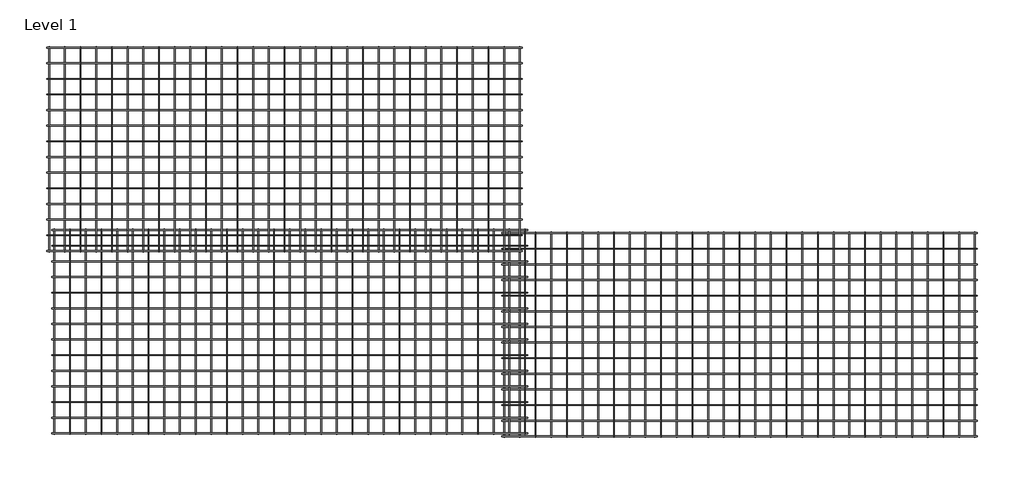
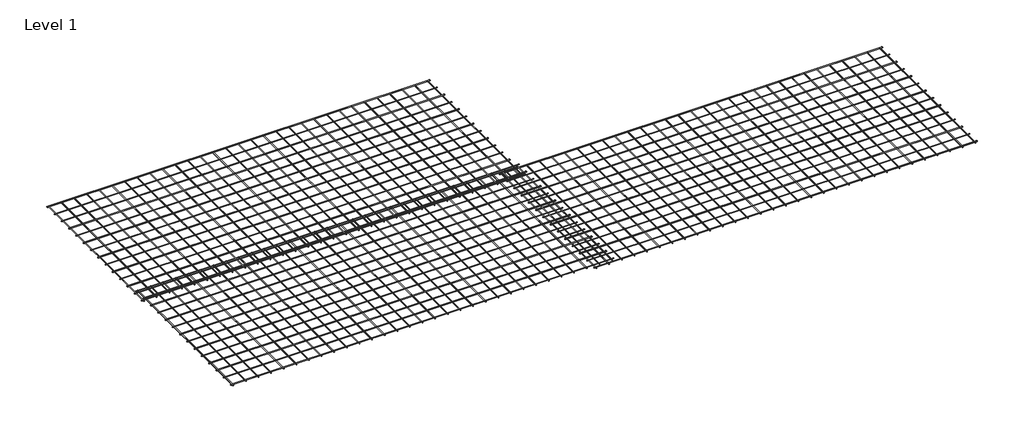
# One storey: 3 proxies.
"""IFC4 building model written with IfcOpenShell, lengths in millimetres."""

import ifcopenshell
import ifcopenshell.guid

model = None  # the IFC model being written
_history = None  # IfcOwnerHistory: only IFC2X3 demands one
_inside = {}  # id of a spatial element -> (the spatial element, [elements in it])
_under = {}  # id of a project, library or spatial element -> (it, [spatial elements below it])
_declared = {}  # id of a project -> (the project, [libraries it declares])
_typed = {}  # id of a type object -> (the type object, [elements of that type])
_made_of = {}  # id of a material, layer set ... -> (it, [elements and type objects made of it])


def new_model(schema):
    """Start an empty IFC model of exactly this schema.

    Asked for "IFC4X3", IfcOpenShell would pick the latest addendum, in which some entities
    have other attributes; the version numbers below select the first issue.
    IFC2X3 requires an IfcOwnerHistory on every rooted entity: one is made here for all.
    """
    global model, _history
    if schema == "IFC4X3":
        model = ifcopenshell.file(schema_version=(4, 3, 0, 0))
    else:
        model = ifcopenshell.file(schema=schema)
    _inside.clear()
    _under.clear()
    _declared.clear()
    _typed.clear()
    _made_of.clear()
    _history = None
    if model.schema == "IFC2X3":
        org = make("IfcOrganization", Name="unknown")
        user = make(
            "IfcPersonAndOrganization",
            ThePerson=make("IfcPerson", FamilyName="unknown"),
            TheOrganization=org,
        )
        app = make(
            "IfcApplication",
            ApplicationDeveloper=org,
            Version="unknown",
            ApplicationFullName="unknown",
            ApplicationIdentifier="unknown",
        )
        _history = make(
            "IfcOwnerHistory",
            OwningUser=user,
            OwningApplication=app,
            ChangeAction="ADDED",
            CreationDate=0,
        )
    return model


def make(cls, **values):
    """One entity of the class cls with the attributes given. An attribute that is None is left unset."""
    return model.create_entity(
        cls, **{name: value for name, value in values.items() if value is not None}
    )


def rooted(cls, **values):
    """An entity with a GlobalId (a new one), such as an element, a storey or a relation."""
    return make(cls, GlobalId=ifcopenshell.guid.new(), OwnerHistory=_history, **values)


def si_unit(unit_type, name, prefix=None):
    """IfcSIUnit, for example si_unit("LENGTHUNIT", "METRE", prefix="MILLI")."""
    return make("IfcSIUnit", UnitType=unit_type, Prefix=prefix, Name=name)


def assignment(units):
    """IfcUnitAssignment: the units of a project."""
    return None if units is None else make("IfcUnitAssignment", Units=units)


def point(xyz):
    """IfcCartesianPoint."""
    return None if xyz is None else make("IfcCartesianPoint", Coordinates=xyz)


def direction(xyz):
    """IfcDirection."""
    return None if xyz is None else make("IfcDirection", DirectionRatios=xyz)


def frame(location, z_axis=None, x_axis=None):
    """IfcAxis2Placement3D, a coordinate frame: its origin and axes. An axis left out is left unset."""
    return make(
        "IfcAxis2Placement3D",
        Location=point(location),
        Axis=direction(z_axis),
        RefDirection=direction(x_axis),
    )


def frame_2d(location, x_axis=None):
    """IfcAxis2Placement2D, a coordinate frame in the plane: its origin and x axis."""
    return make(
        "IfcAxis2Placement2D", Location=point(location), RefDirection=direction(x_axis)
    )


def origin():
    """The frame at (0, 0, 0) with its axes left unset."""
    return frame((0.0, 0.0, 0.0))


def place(relative_to, where):
    """IfcLocalPlacement: puts the frame where relative to a parent placement (None: the world)."""
    return make(
        "IfcLocalPlacement", PlacementRelTo=relative_to, RelativePlacement=where
    )


def context(
    kind, dimensions, precision=None, world=None, true_north=None, identifier=None
):
    """IfcGeometricRepresentationContext, for example the 3D "Model" context."""
    return make(
        "IfcGeometricRepresentationContext",
        ContextIdentifier=identifier,
        ContextType=kind,
        CoordinateSpaceDimension=dimensions,
        Precision=precision,
        WorldCoordinateSystem=world,
        TrueNorth=true_north,
    )


def project(units=None, contexts=None):
    """IfcProject with its units and contexts."""
    return rooted(
        "IfcProject",
        Name="project",
        RepresentationContexts=contexts,
        UnitsInContext=assignment(units),
    )


def spatial(cls, under=None, at=None, **own):
    """A site, building, storey or space (cls), placed at a placement, below another one or the project."""
    s = rooted(cls, ObjectPlacement=at, **own)
    if under is not None:
        _under.setdefault(under.id(), (under, []))[1].append(s)
    return s


def circle_curve(where, radius):
    """IfcCircle in the frame where."""
    return make("IfcCircle", Position=where, Radius=radius)


def trimmed(basis, trim1, trim2, sense, master):
    """IfcTrimmedCurve: the piece of a basis curve between two trims."""
    return make(
        "IfcTrimmedCurve",
        BasisCurve=basis,
        Trim1=trim1,
        Trim2=trim2,
        SenseAgreement=sense,
        MasterRepresentation=master,
    )


def segment(curve, same_sense, transition):
    """IfcCompositeCurveSegment."""
    return make(
        "IfcCompositeCurveSegment",
        Transition=transition,
        SameSense=same_sense,
        ParentCurve=curve,
    )


def composite_curve(segments, self_intersect=None):
    """IfcCompositeCurve: segments joined end to end."""
    return make("IfcCompositeCurve", Segments=segments, SelfIntersect=self_intersect)


def outline(outer, holes=None, kind="AREA"):
    """IfcArbitraryClosedProfileDef: a profile drawn as a closed curve; with holes, ...WithVoids."""
    if holes is None:
        return make("IfcArbitraryClosedProfileDef", ProfileType=kind, OuterCurve=outer)
    return make(
        "IfcArbitraryProfileDefWithVoids",
        ProfileType=kind,
        OuterCurve=outer,
        InnerCurves=holes,
    )


def extrude(swept, where, along, depth):
    """IfcExtrudedAreaSolid: the profile swept, set in the frame where, extruded along a direction by depth."""
    return make(
        "IfcExtrudedAreaSolid",
        SweptArea=swept,
        Position=where,
        ExtrudedDirection=direction(along),
        Depth=depth,
    )


def shape(context_of_items, identifier, shape_type, items):
    """IfcShapeRepresentation: the items that make up one representation, for example the "Body"."""
    return make(
        "IfcShapeRepresentation",
        ContextOfItems=context_of_items,
        RepresentationIdentifier=identifier,
        RepresentationType=shape_type,
        Items=items,
    )


def source(mapping_origin, context_of_items, identifier, shape_type, items):
    """IfcRepresentationMap: a shape defined once, which mapped items show again and again."""
    return make(
        "IfcRepresentationMap",
        MappingOrigin=mapping_origin,
        MappedRepresentation=shape(context_of_items, identifier, shape_type, items),
    )


def transform(
    local_origin,
    x_axis=None,
    y_axis=None,
    z_axis=None,
    scale=None,
    scale2=None,
    scale3=None,
    uniform=True,
):
    """IfcCartesianTransformationOperator3D, or its non-uniform kind. x_axis, y_axis, z_axis: its Axis1, 2, 3."""
    if uniform:
        return make(
            "IfcCartesianTransformationOperator3D",
            Axis1=direction(x_axis),
            Axis2=direction(y_axis),
            LocalOrigin=point(local_origin),
            Scale=scale,
            Axis3=direction(z_axis),
        )
    return make(
        "IfcCartesianTransformationOperator3DnonUniform",
        Axis1=direction(x_axis),
        Axis2=direction(y_axis),
        LocalOrigin=point(local_origin),
        Scale=scale,
        Axis3=direction(z_axis),
        Scale2=scale2,
        Scale3=scale3,
    )


def mapped(mapping_source, mapping_target):
    """IfcMappedItem: shows the shape of a source again, moved by a transform."""
    return make(
        "IfcMappedItem", MappingSource=mapping_source, MappingTarget=mapping_target
    )


def made_of(thing, what):
    """Note that an element or type object is made of a material, layer set ...; save() writes the relation."""
    if what is not None:
        _made_of.setdefault(what.id(), (what, []))[1].append(thing)
    return thing


def element(
    cls,
    number,
    at=None,
    inside=None,
    cuts=None,
    type_object=None,
    material=None,
    context=None,
    identifier="Body",
    shape_type=None,
    held_by="IfcProductDefinitionShape",
    body=None,
    shapes=None,
    **own,
):
    """One element of the class cls, such as IfcWall. Its Tag is "e" and its number.

    at: its placement. inside: the storey or other place that contains it. cuts: it is an
    opening in that element (IfcRelVoidsElement). A single representation is given by context,
    identifier, shape_type and body (its items); several are given by shapes. held_by: the class
    of the entity that holds the representations. save() writes the other relations.
    """
    e = rooted(cls, Tag="e%d" % number, ObjectPlacement=at, **own)
    if body is not None:
        shapes = [shape(context, identifier, shape_type, body)]
    if shapes is not None:
        e.Representation = make(held_by, Representations=shapes)
    if inside is not None:
        _inside.setdefault(inside.id(), (inside, []))[1].append(e)
    if cuts is not None:
        rooted(
            "IfcRelVoidsElement", RelatingBuildingElement=cuts, RelatedOpeningElement=e
        )
    if type_object is not None:
        _typed.setdefault(type_object.id(), (type_object, []))[1].append(e)
    return made_of(e, material)


def aggregate(whole, parts):
    """IfcRelAggregates: a whole, such as a stair, and the parts it consists of."""
    return rooted("IfcRelAggregates", RelatingObject=whole, RelatedObjects=parts)


def save(model, path):
    """Write the relations noted so far, then the file.

    IfcRelAggregates (storeys below a building ...), IfcRelContainedInSpatialStructure (elements
    in a storey), IfcRelDefinesByType, IfcRelAssociatesMaterial and IfcRelDeclares: one each for
    every whole, place, type object, material and project.
    """
    for whole, parts in _under.values():
        aggregate(whole, parts)
    for where, things in _inside.values():
        rooted(
            "IfcRelContainedInSpatialStructure",
            RelatedElements=things,
            RelatingStructure=where,
        )
    for kind, things in _typed.values():
        rooted("IfcRelDefinesByType", RelatedObjects=things, RelatingType=kind)
    for what, things in _made_of.values():
        rooted("IfcRelAssociatesMaterial", RelatedObjects=things, RelatingMaterial=what)
    for by, libraries in _declared.values():
        rooted("IfcRelDeclares", RelatingContext=by, RelatedDefinitions=libraries)
    model.write(path)


def united_steel_668_standard_mesh_united_steel_668_standard_f7d3e2c0(model_context):
    return source(origin(), model_context, "Body", "SweptSolid", [
        extrude(outline(composite_curve([segment(trimmed(circle_curve(frame_2d((-160.258988, 11.9785975)), 4.0), [point((-164.258988, 11.9785975))], [point((-156.258988, 11.9785975))], False, "CARTESIAN"), True, "CONTINUOUS"), segment(trimmed(circle_curve(frame_2d((-160.258988, 11.9785975)), 4.0), [point((-156.258988, 11.9785975))], [point((-164.258988, 11.9785975))], False, "CARTESIAN"), True, "CONTINUOUS")], self_intersect=False)), frame((-4560.0, 0.0, 0.0), z_axis=(1.0, 0.0, 0.0), x_axis=(0.0, 1.0, 0.0)), (0.0, 0.0, 1.0), 4560.0),
        extrude(outline(composite_curve([segment(trimmed(circle_curve(frame_2d((3.981299, -4384.564546)), 4.0), [point((3.981299, -4388.564546))], [point((3.981299, -4380.564546))], False, "CARTESIAN"), True, "CONTINUOUS"), segment(trimmed(circle_curve(frame_2d((3.981299, -4384.564546)), 4.0), [point((3.981299, -4380.564546))], [point((3.981299, -4388.564546))], False, "CARTESIAN"), True, "CONTINUOUS")], self_intersect=False)), frame((0.0, -1970.0, 0.0), z_axis=(0.0, 1.0, 0.0), x_axis=(0.0, 0.0, 1.0)), (0.0, 0.0, 1.0), 1970.0),
        extrude(outline(composite_curve([segment(trimmed(circle_curve(frame_2d((-310.2633498, 11.9785975)), 4.0), [point((-314.2633498, 11.9785975))], [point((-306.2633498, 11.9785975))], False, "CARTESIAN"), True, "CONTINUOUS"), segment(trimmed(circle_curve(frame_2d((-310.2633498, 11.9785975)), 4.0), [point((-306.2633498, 11.9785975))], [point((-314.2633498, 11.9785975))], False, "CARTESIAN"), True, "CONTINUOUS")], self_intersect=False)), frame((-4560.0, 0.0, 0.0), z_axis=(1.0, 0.0, 0.0), x_axis=(0.0, 1.0, 0.0)), (0.0, 0.0, 1.0), 4560.0),
        extrude(outline(composite_curve([segment(trimmed(circle_curve(frame_2d((-460.2677116, 11.9785975)), 4.0), [point((-464.2677116, 11.9785975))], [point((-456.2677116, 11.9785975))], False, "CARTESIAN"), True, "CONTINUOUS"), segment(trimmed(circle_curve(frame_2d((-460.2677116, 11.9785975)), 4.0), [point((-456.2677116, 11.9785975))], [point((-464.2677116, 11.9785975))], False, "CARTESIAN"), True, "CONTINUOUS")], self_intersect=False)), frame((-4560.0, 0.0, 0.0), z_axis=(1.0, 0.0, 0.0), x_axis=(0.0, 1.0, 0.0)), (0.0, 0.0, 1.0), 4560.0),
        extrude(outline(composite_curve([segment(trimmed(circle_curve(frame_2d((3.981299, -4234.2352351)), 4.0), [point((3.981299, -4238.2352351))], [point((3.981299, -4230.2352351))], False, "CARTESIAN"), True, "CONTINUOUS"), segment(trimmed(circle_curve(frame_2d((3.981299, -4234.2352351)), 4.0), [point((3.981299, -4230.2352351))], [point((3.981299, -4238.2352351))], False, "CARTESIAN"), True, "CONTINUOUS")], self_intersect=False)), frame((0.0, -1970.0, 0.0), z_axis=(0.0, 1.0, 0.0), x_axis=(0.0, 0.0, 1.0)), (0.0, 0.0, 1.0), 1970.0),
        extrude(outline(composite_curve([segment(trimmed(circle_curve(frame_2d((3.981299, -4083.9059242)), 4.0), [point((3.981299, -4087.9059242))], [point((3.981299, -4079.9059242))], False, "CARTESIAN"), True, "CONTINUOUS"), segment(trimmed(circle_curve(frame_2d((3.981299, -4083.9059242)), 4.0), [point((3.981299, -4079.9059242))], [point((3.981299, -4087.9059242))], False, "CARTESIAN"), True, "CONTINUOUS")], self_intersect=False)), frame((0.0, -1970.0, 0.0), z_axis=(0.0, 1.0, 0.0), x_axis=(0.0, 0.0, 1.0)), (0.0, 0.0, 1.0), 1970.0),
        extrude(outline(composite_curve([segment(trimmed(circle_curve(frame_2d((3.981299, -3933.5766132)), 4.0), [point((3.981299, -3937.5766132))], [point((3.981299, -3929.5766132))], False, "CARTESIAN"), True, "CONTINUOUS"), segment(trimmed(circle_curve(frame_2d((3.981299, -3933.5766132)), 4.0), [point((3.981299, -3929.5766132))], [point((3.981299, -3937.5766132))], False, "CARTESIAN"), True, "CONTINUOUS")], self_intersect=False)), frame((0.0, -1970.0, 0.0), z_axis=(0.0, 1.0, 0.0), x_axis=(0.0, 0.0, 1.0)), (0.0, 0.0, 1.0), 1970.0),
        extrude(outline(composite_curve([segment(trimmed(circle_curve(frame_2d((3.981299, -3783.2473023)), 4.0), [point((3.981299, -3787.2473023))], [point((3.981299, -3779.2473023))], False, "CARTESIAN"), True, "CONTINUOUS"), segment(trimmed(circle_curve(frame_2d((3.981299, -3783.2473023)), 4.0), [point((3.981299, -3779.2473023))], [point((3.981299, -3787.2473023))], False, "CARTESIAN"), True, "CONTINUOUS")], self_intersect=False)), frame((0.0, -1970.0, 0.0), z_axis=(0.0, 1.0, 0.0), x_axis=(0.0, 0.0, 1.0)), (0.0, 0.0, 1.0), 1970.0),
        extrude(outline(composite_curve([segment(trimmed(circle_curve(frame_2d((3.981299, -3632.9179913)), 4.0), [point((3.981299, -3636.9179913))], [point((3.981299, -3628.9179913))], False, "CARTESIAN"), True, "CONTINUOUS"), segment(trimmed(circle_curve(frame_2d((3.981299, -3632.9179913)), 4.0), [point((3.981299, -3628.9179913))], [point((3.981299, -3636.9179913))], False, "CARTESIAN"), True, "CONTINUOUS")], self_intersect=False)), frame((0.0, -1970.0, 0.0), z_axis=(0.0, 1.0, 0.0), x_axis=(0.0, 0.0, 1.0)), (0.0, 0.0, 1.0), 1970.0),
        extrude(outline(composite_curve([segment(trimmed(circle_curve(frame_2d((3.981299, -3482.5886804)), 4.0), [point((3.981299, -3486.5886804))], [point((3.981299, -3478.5886804))], False, "CARTESIAN"), True, "CONTINUOUS"), segment(trimmed(circle_curve(frame_2d((3.981299, -3482.5886804)), 4.0), [point((3.981299, -3478.5886804))], [point((3.981299, -3486.5886804))], False, "CARTESIAN"), True, "CONTINUOUS")], self_intersect=False)), frame((0.0, -1970.0, 0.0), z_axis=(0.0, 1.0, 0.0), x_axis=(0.0, 0.0, 1.0)), (0.0, 0.0, 1.0), 1970.0),
        extrude(outline(composite_curve([segment(trimmed(circle_curve(frame_2d((3.981299, -3332.2593695)), 4.0), [point((3.981299, -3336.2593695))], [point((3.981299, -3328.2593695))], False, "CARTESIAN"), True, "CONTINUOUS"), segment(trimmed(circle_curve(frame_2d((3.981299, -3332.2593695)), 4.0), [point((3.981299, -3328.2593695))], [point((3.981299, -3336.2593695))], False, "CARTESIAN"), True, "CONTINUOUS")], self_intersect=False)), frame((0.0, -1970.0, 0.0), z_axis=(0.0, 1.0, 0.0), x_axis=(0.0, 0.0, 1.0)), (0.0, 0.0, 1.0), 1970.0),
        extrude(outline(composite_curve([segment(trimmed(circle_curve(frame_2d((-610.2720734, 11.9785975)), 4.0), [point((-614.2720734, 11.9785975))], [point((-606.2720734, 11.9785975))], False, "CARTESIAN"), True, "CONTINUOUS"), segment(trimmed(circle_curve(frame_2d((-610.2720734, 11.9785975)), 4.0), [point((-606.2720734, 11.9785975))], [point((-614.2720734, 11.9785975))], False, "CARTESIAN"), True, "CONTINUOUS")], self_intersect=False)), frame((-4560.0, 0.0, 0.0), z_axis=(1.0, 0.0, 0.0), x_axis=(0.0, 1.0, 0.0)), (0.0, 0.0, 1.0), 4560.0),
        extrude(outline(composite_curve([segment(trimmed(circle_curve(frame_2d((-760.2764352, 11.9785975)), 4.0), [point((-764.2764352, 11.9785975))], [point((-756.2764352, 11.9785975))], False, "CARTESIAN"), True, "CONTINUOUS"), segment(trimmed(circle_curve(frame_2d((-760.2764352, 11.9785975)), 4.0), [point((-756.2764352, 11.9785975))], [point((-764.2764352, 11.9785975))], False, "CARTESIAN"), True, "CONTINUOUS")], self_intersect=False)), frame((-4560.0, 0.0, 0.0), z_axis=(1.0, 0.0, 0.0), x_axis=(0.0, 1.0, 0.0)), (0.0, 0.0, 1.0), 4560.0),
        extrude(outline(composite_curve([segment(trimmed(circle_curve(frame_2d((-910.280797, 11.9785975)), 4.0), [point((-914.280797, 11.9785975))], [point((-906.280797, 11.9785975))], False, "CARTESIAN"), True, "CONTINUOUS"), segment(trimmed(circle_curve(frame_2d((-910.280797, 11.9785975)), 4.0), [point((-906.280797, 11.9785975))], [point((-914.280797, 11.9785975))], False, "CARTESIAN"), True, "CONTINUOUS")], self_intersect=False)), frame((-4560.0, 0.0, 0.0), z_axis=(1.0, 0.0, 0.0), x_axis=(0.0, 1.0, 0.0)), (0.0, 0.0, 1.0), 4560.0),
        extrude(outline(composite_curve([segment(trimmed(circle_curve(frame_2d((-1060.2851588, 11.9785975)), 4.0), [point((-1064.2851588, 11.9785975))], [point((-1056.2851588, 11.9785975))], False, "CARTESIAN"), True, "CONTINUOUS"), segment(trimmed(circle_curve(frame_2d((-1060.2851588, 11.9785975)), 4.0), [point((-1056.2851588, 11.9785975))], [point((-1064.2851588, 11.9785975))], False, "CARTESIAN"), True, "CONTINUOUS")], self_intersect=False)), frame((-4560.0, 0.0, 0.0), z_axis=(1.0, 0.0, 0.0), x_axis=(0.0, 1.0, 0.0)), (0.0, 0.0, 1.0), 4560.0),
        extrude(outline(composite_curve([segment(trimmed(circle_curve(frame_2d((-1210.2895206, 11.9785975)), 4.0), [point((-1214.2895206, 11.9785975))], [point((-1206.2895206, 11.9785975))], False, "CARTESIAN"), True, "CONTINUOUS"), segment(trimmed(circle_curve(frame_2d((-1210.2895206, 11.9785975)), 4.0), [point((-1206.2895206, 11.9785975))], [point((-1214.2895206, 11.9785975))], False, "CARTESIAN"), True, "CONTINUOUS")], self_intersect=False)), frame((-4560.0, 0.0, 0.0), z_axis=(1.0, 0.0, 0.0), x_axis=(0.0, 1.0, 0.0)), (0.0, 0.0, 1.0), 4560.0),
        extrude(outline(composite_curve([segment(trimmed(circle_curve(frame_2d((-1360.2938824, 11.9785975)), 4.0), [point((-1364.2938824, 11.9785975))], [point((-1356.2938824, 11.9785975))], False, "CARTESIAN"), True, "CONTINUOUS"), segment(trimmed(circle_curve(frame_2d((-1360.2938824, 11.9785975)), 4.0), [point((-1356.2938824, 11.9785975))], [point((-1364.2938824, 11.9785975))], False, "CARTESIAN"), True, "CONTINUOUS")], self_intersect=False)), frame((-4560.0, 0.0, 0.0), z_axis=(1.0, 0.0, 0.0), x_axis=(0.0, 1.0, 0.0)), (0.0, 0.0, 1.0), 4560.0),
        extrude(outline(composite_curve([segment(trimmed(circle_curve(frame_2d((-1510.2982442, 11.9785975)), 4.0), [point((-1514.2982442, 11.9785975))], [point((-1506.2982442, 11.9785975))], False, "CARTESIAN"), True, "CONTINUOUS"), segment(trimmed(circle_curve(frame_2d((-1510.2982442, 11.9785975)), 4.0), [point((-1506.2982442, 11.9785975))], [point((-1514.2982442, 11.9785975))], False, "CARTESIAN"), True, "CONTINUOUS")], self_intersect=False)), frame((-4560.0, 0.0, 0.0), z_axis=(1.0, 0.0, 0.0), x_axis=(0.0, 1.0, 0.0)), (0.0, 0.0, 1.0), 4560.0),
        extrude(outline(composite_curve([segment(trimmed(circle_curve(frame_2d((-1660.302606, 11.9785975)), 4.0), [point((-1664.302606, 11.9785975))], [point((-1656.302606, 11.9785975))], False, "CARTESIAN"), True, "CONTINUOUS"), segment(trimmed(circle_curve(frame_2d((-1660.302606, 11.9785975)), 4.0), [point((-1656.302606, 11.9785975))], [point((-1664.302606, 11.9785975))], False, "CARTESIAN"), True, "CONTINUOUS")], self_intersect=False)), frame((-4560.0, 0.0, 0.0), z_axis=(1.0, 0.0, 0.0), x_axis=(0.0, 1.0, 0.0)), (0.0, 0.0, 1.0), 4560.0),
        extrude(outline(composite_curve([segment(trimmed(circle_curve(frame_2d((-1810.3069678, 11.9785975)), 4.0), [point((-1814.3069678, 11.9785975))], [point((-1806.3069678, 11.9785975))], False, "CARTESIAN"), True, "CONTINUOUS"), segment(trimmed(circle_curve(frame_2d((-1810.3069678, 11.9785975)), 4.0), [point((-1806.3069678, 11.9785975))], [point((-1814.3069678, 11.9785975))], False, "CARTESIAN"), True, "CONTINUOUS")], self_intersect=False)), frame((-4560.0, 0.0, 0.0), z_axis=(1.0, 0.0, 0.0), x_axis=(0.0, 1.0, 0.0)), (0.0, 0.0, 1.0), 4560.0),
        extrude(outline(composite_curve([segment(trimmed(circle_curve(frame_2d((-10.2546262, 11.9785975)), 4.0), [point((-14.2546262, 11.9785975))], [point((-6.2546262, 11.9785975))], False, "CARTESIAN"), True, "CONTINUOUS"), segment(trimmed(circle_curve(frame_2d((-10.2546262, 11.9785975)), 4.0), [point((-6.2546262, 11.9785975))], [point((-14.2546262, 11.9785975))], False, "CARTESIAN"), True, "CONTINUOUS")], self_intersect=False)), frame((-4560.0, 0.0, 0.0), z_axis=(1.0, 0.0, 0.0), x_axis=(0.0, 1.0, 0.0)), (0.0, 0.0, 1.0), 4560.0),
        extrude(outline(composite_curve([segment(trimmed(circle_curve(frame_2d((-1960.3113296, 11.9785975)), 4.0), [point((-1964.3113296, 11.9785975))], [point((-1956.3113296, 11.9785975))], False, "CARTESIAN"), True, "CONTINUOUS"), segment(trimmed(circle_curve(frame_2d((-1960.3113296, 11.9785975)), 4.0), [point((-1956.3113296, 11.9785975))], [point((-1964.3113296, 11.9785975))], False, "CARTESIAN"), True, "CONTINUOUS")], self_intersect=False)), frame((-4560.0, 0.0, 0.0), z_axis=(1.0, 0.0, 0.0), x_axis=(0.0, 1.0, 0.0)), (0.0, 0.0, 1.0), 4560.0),
        extrude(outline(composite_curve([segment(trimmed(circle_curve(frame_2d((3.981299, -3181.9300585)), 4.0), [point((3.981299, -3185.9300585))], [point((3.981299, -3177.9300585))], False, "CARTESIAN"), True, "CONTINUOUS"), segment(trimmed(circle_curve(frame_2d((3.981299, -3181.9300585)), 4.0), [point((3.981299, -3177.9300585))], [point((3.981299, -3185.9300585))], False, "CARTESIAN"), True, "CONTINUOUS")], self_intersect=False)), frame((0.0, -1970.0, 0.0), z_axis=(0.0, 1.0, 0.0), x_axis=(0.0, 0.0, 1.0)), (0.0, 0.0, 1.0), 1970.0),
        extrude(outline(composite_curve([segment(trimmed(circle_curve(frame_2d((3.981299, -3031.6007476)), 4.0), [point((3.981299, -3035.6007476))], [point((3.981299, -3027.6007476))], False, "CARTESIAN"), True, "CONTINUOUS"), segment(trimmed(circle_curve(frame_2d((3.981299, -3031.6007476)), 4.0), [point((3.981299, -3027.6007476))], [point((3.981299, -3035.6007476))], False, "CARTESIAN"), True, "CONTINUOUS")], self_intersect=False)), frame((0.0, -1970.0, 0.0), z_axis=(0.0, 1.0, 0.0), x_axis=(0.0, 0.0, 1.0)), (0.0, 0.0, 1.0), 1970.0),
        extrude(outline(composite_curve([segment(trimmed(circle_curve(frame_2d((3.981299, -2881.2714366)), 4.0), [point((3.981299, -2885.2714366))], [point((3.981299, -2877.2714366))], False, "CARTESIAN"), True, "CONTINUOUS"), segment(trimmed(circle_curve(frame_2d((3.981299, -2881.2714366)), 4.0), [point((3.981299, -2877.2714366))], [point((3.981299, -2885.2714366))], False, "CARTESIAN"), True, "CONTINUOUS")], self_intersect=False)), frame((0.0, -1970.0, 0.0), z_axis=(0.0, 1.0, 0.0), x_axis=(0.0, 0.0, 1.0)), (0.0, 0.0, 1.0), 1970.0),
        extrude(outline(composite_curve([segment(trimmed(circle_curve(frame_2d((3.981299, -2730.9421257)), 4.0), [point((3.981299, -2734.9421257))], [point((3.981299, -2726.9421257))], False, "CARTESIAN"), True, "CONTINUOUS"), segment(trimmed(circle_curve(frame_2d((3.981299, -2730.9421257)), 4.0), [point((3.981299, -2726.9421257))], [point((3.981299, -2734.9421257))], False, "CARTESIAN"), True, "CONTINUOUS")], self_intersect=False)), frame((0.0, -1970.0, 0.0), z_axis=(0.0, 1.0, 0.0), x_axis=(0.0, 0.0, 1.0)), (0.0, 0.0, 1.0), 1970.0),
        extrude(outline(composite_curve([segment(trimmed(circle_curve(frame_2d((3.981299, -2580.6128148)), 4.0), [point((3.981299, -2584.6128148))], [point((3.981299, -2576.6128148))], False, "CARTESIAN"), True, "CONTINUOUS"), segment(trimmed(circle_curve(frame_2d((3.981299, -2580.6128148)), 4.0), [point((3.981299, -2576.6128148))], [point((3.981299, -2584.6128148))], False, "CARTESIAN"), True, "CONTINUOUS")], self_intersect=False)), frame((0.0, -1970.0, 0.0), z_axis=(0.0, 1.0, 0.0), x_axis=(0.0, 0.0, 1.0)), (0.0, 0.0, 1.0), 1970.0),
        extrude(outline(composite_curve([segment(trimmed(circle_curve(frame_2d((3.981299, -2430.2835038)), 4.0), [point((3.981299, -2434.2835038))], [point((3.981299, -2426.2835038))], False, "CARTESIAN"), True, "CONTINUOUS"), segment(trimmed(circle_curve(frame_2d((3.981299, -2430.2835038)), 4.0), [point((3.981299, -2426.2835038))], [point((3.981299, -2434.2835038))], False, "CARTESIAN"), True, "CONTINUOUS")], self_intersect=False)), frame((0.0, -1970.0, 0.0), z_axis=(0.0, 1.0, 0.0), x_axis=(0.0, 0.0, 1.0)), (0.0, 0.0, 1.0), 1970.0),
        extrude(outline(composite_curve([segment(trimmed(circle_curve(frame_2d((3.981299, -2279.9541929)), 4.0), [point((3.981299, -2283.9541929))], [point((3.981299, -2275.9541929))], False, "CARTESIAN"), True, "CONTINUOUS"), segment(trimmed(circle_curve(frame_2d((3.981299, -2279.9541929)), 4.0), [point((3.981299, -2275.9541929))], [point((3.981299, -2283.9541929))], False, "CARTESIAN"), True, "CONTINUOUS")], self_intersect=False)), frame((0.0, -1970.0, 0.0), z_axis=(0.0, 1.0, 0.0), x_axis=(0.0, 0.0, 1.0)), (0.0, 0.0, 1.0), 1970.0),
        extrude(outline(composite_curve([segment(trimmed(circle_curve(frame_2d((3.981299, -2129.6248819)), 4.0), [point((3.981299, -2133.6248819))], [point((3.981299, -2125.6248819))], False, "CARTESIAN"), True, "CONTINUOUS"), segment(trimmed(circle_curve(frame_2d((3.981299, -2129.6248819)), 4.0), [point((3.981299, -2125.6248819))], [point((3.981299, -2133.6248819))], False, "CARTESIAN"), True, "CONTINUOUS")], self_intersect=False)), frame((0.0, -1970.0, 0.0), z_axis=(0.0, 1.0, 0.0), x_axis=(0.0, 0.0, 1.0)), (0.0, 0.0, 1.0), 1970.0),
        extrude(outline(composite_curve([segment(trimmed(circle_curve(frame_2d((3.981299, -1979.295571)), 4.0), [point((3.981299, -1983.295571))], [point((3.981299, -1975.295571))], False, "CARTESIAN"), True, "CONTINUOUS"), segment(trimmed(circle_curve(frame_2d((3.981299, -1979.295571)), 4.0), [point((3.981299, -1975.295571))], [point((3.981299, -1983.295571))], False, "CARTESIAN"), True, "CONTINUOUS")], self_intersect=False)), frame((0.0, -1970.0, 0.0), z_axis=(0.0, 1.0, 0.0), x_axis=(0.0, 0.0, 1.0)), (0.0, 0.0, 1.0), 1970.0),
        extrude(outline(composite_curve([segment(trimmed(circle_curve(frame_2d((3.981299, -1828.96626)), 4.0), [point((3.981299, -1832.96626))], [point((3.981299, -1824.96626))], False, "CARTESIAN"), True, "CONTINUOUS"), segment(trimmed(circle_curve(frame_2d((3.981299, -1828.96626)), 4.0), [point((3.981299, -1824.96626))], [point((3.981299, -1832.96626))], False, "CARTESIAN"), True, "CONTINUOUS")], self_intersect=False)), frame((0.0, -1970.0, 0.0), z_axis=(0.0, 1.0, 0.0), x_axis=(0.0, 0.0, 1.0)), (0.0, 0.0, 1.0), 1970.0),
        extrude(outline(composite_curve([segment(trimmed(circle_curve(frame_2d((3.981299, -1678.6369491)), 4.0), [point((3.981299, -1682.6369491))], [point((3.981299, -1674.6369491))], False, "CARTESIAN"), True, "CONTINUOUS"), segment(trimmed(circle_curve(frame_2d((3.981299, -1678.6369491)), 4.0), [point((3.981299, -1674.6369491))], [point((3.981299, -1682.6369491))], False, "CARTESIAN"), True, "CONTINUOUS")], self_intersect=False)), frame((0.0, -1970.0, 0.0), z_axis=(0.0, 1.0, 0.0), x_axis=(0.0, 0.0, 1.0)), (0.0, 0.0, 1.0), 1970.0),
        extrude(outline(composite_curve([segment(trimmed(circle_curve(frame_2d((3.981299, -1528.3076382)), 4.0), [point((3.981299, -1532.3076382))], [point((3.981299, -1524.3076382))], False, "CARTESIAN"), True, "CONTINUOUS"), segment(trimmed(circle_curve(frame_2d((3.981299, -1528.3076382)), 4.0), [point((3.981299, -1524.3076382))], [point((3.981299, -1532.3076382))], False, "CARTESIAN"), True, "CONTINUOUS")], self_intersect=False)), frame((0.0, -1970.0, 0.0), z_axis=(0.0, 1.0, 0.0), x_axis=(0.0, 0.0, 1.0)), (0.0, 0.0, 1.0), 1970.0),
        extrude(outline(composite_curve([segment(trimmed(circle_curve(frame_2d((3.981299, -1377.9783272)), 4.0), [point((3.981299, -1381.9783272))], [point((3.981299, -1373.9783272))], False, "CARTESIAN"), True, "CONTINUOUS"), segment(trimmed(circle_curve(frame_2d((3.981299, -1377.9783272)), 4.0), [point((3.981299, -1373.9783272))], [point((3.981299, -1381.9783272))], False, "CARTESIAN"), True, "CONTINUOUS")], self_intersect=False)), frame((0.0, -1970.0, 0.0), z_axis=(0.0, 1.0, 0.0), x_axis=(0.0, 0.0, 1.0)), (0.0, 0.0, 1.0), 1970.0),
        extrude(outline(composite_curve([segment(trimmed(circle_curve(frame_2d((3.981299, -1227.6490163)), 4.0), [point((3.981299, -1231.6490163))], [point((3.981299, -1223.6490163))], False, "CARTESIAN"), True, "CONTINUOUS"), segment(trimmed(circle_curve(frame_2d((3.981299, -1227.6490163)), 4.0), [point((3.981299, -1223.6490163))], [point((3.981299, -1231.6490163))], False, "CARTESIAN"), True, "CONTINUOUS")], self_intersect=False)), frame((0.0, -1970.0, 0.0), z_axis=(0.0, 1.0, 0.0), x_axis=(0.0, 0.0, 1.0)), (0.0, 0.0, 1.0), 1970.0),
        extrude(outline(composite_curve([segment(trimmed(circle_curve(frame_2d((3.981299, -1077.3197053)), 4.0), [point((3.981299, -1081.3197053))], [point((3.981299, -1073.3197053))], False, "CARTESIAN"), True, "CONTINUOUS"), segment(trimmed(circle_curve(frame_2d((3.981299, -1077.3197053)), 4.0), [point((3.981299, -1073.3197053))], [point((3.981299, -1081.3197053))], False, "CARTESIAN"), True, "CONTINUOUS")], self_intersect=False)), frame((0.0, -1970.0, 0.0), z_axis=(0.0, 1.0, 0.0), x_axis=(0.0, 0.0, 1.0)), (0.0, 0.0, 1.0), 1970.0),
        extrude(outline(composite_curve([segment(trimmed(circle_curve(frame_2d((3.981299, -926.9903944)), 4.0), [point((3.981299, -930.9903944))], [point((3.981299, -922.9903944))], False, "CARTESIAN"), True, "CONTINUOUS"), segment(trimmed(circle_curve(frame_2d((3.981299, -926.9903944)), 4.0), [point((3.981299, -922.9903944))], [point((3.981299, -930.9903944))], False, "CARTESIAN"), True, "CONTINUOUS")], self_intersect=False)), frame((0.0, -1970.0, 0.0), z_axis=(0.0, 1.0, 0.0), x_axis=(0.0, 0.0, 1.0)), (0.0, 0.0, 1.0), 1970.0),
        extrude(outline(composite_curve([segment(trimmed(circle_curve(frame_2d((3.981299, -776.6610835)), 4.0), [point((3.981299, -780.6610835))], [point((3.981299, -772.6610835))], False, "CARTESIAN"), True, "CONTINUOUS"), segment(trimmed(circle_curve(frame_2d((3.981299, -776.6610835)), 4.0), [point((3.981299, -772.6610835))], [point((3.981299, -780.6610835))], False, "CARTESIAN"), True, "CONTINUOUS")], self_intersect=False)), frame((0.0, -1970.0, 0.0), z_axis=(0.0, 1.0, 0.0), x_axis=(0.0, 0.0, 1.0)), (0.0, 0.0, 1.0), 1970.0),
        extrude(outline(composite_curve([segment(trimmed(circle_curve(frame_2d((3.981299, -626.3317725)), 4.0), [point((3.981299, -630.3317725))], [point((3.981299, -622.3317725))], False, "CARTESIAN"), True, "CONTINUOUS"), segment(trimmed(circle_curve(frame_2d((3.981299, -626.3317725)), 4.0), [point((3.981299, -622.3317725))], [point((3.981299, -630.3317725))], False, "CARTESIAN"), True, "CONTINUOUS")], self_intersect=False)), frame((0.0, -1970.0, 0.0), z_axis=(0.0, 1.0, 0.0), x_axis=(0.0, 0.0, 1.0)), (0.0, 0.0, 1.0), 1970.0),
        extrude(outline(composite_curve([segment(trimmed(circle_curve(frame_2d((3.981299, -476.0024616)), 4.0), [point((3.981299, -480.0024616))], [point((3.981299, -472.0024616))], False, "CARTESIAN"), True, "CONTINUOUS"), segment(trimmed(circle_curve(frame_2d((3.981299, -476.0024616)), 4.0), [point((3.981299, -472.0024616))], [point((3.981299, -480.0024616))], False, "CARTESIAN"), True, "CONTINUOUS")], self_intersect=False)), frame((0.0, -1970.0, 0.0), z_axis=(0.0, 1.0, 0.0), x_axis=(0.0, 0.0, 1.0)), (0.0, 0.0, 1.0), 1970.0),
        extrude(outline(composite_curve([segment(trimmed(circle_curve(frame_2d((3.981299, -325.6731506)), 4.0), [point((3.981299, -329.6731506))], [point((3.981299, -321.6731506))], False, "CARTESIAN"), True, "CONTINUOUS"), segment(trimmed(circle_curve(frame_2d((3.981299, -325.6731506)), 4.0), [point((3.981299, -321.6731506))], [point((3.981299, -329.6731506))], False, "CARTESIAN"), True, "CONTINUOUS")], self_intersect=False)), frame((0.0, -1970.0, 0.0), z_axis=(0.0, 1.0, 0.0), x_axis=(0.0, 0.0, 1.0)), (0.0, 0.0, 1.0), 1970.0),
        extrude(outline(composite_curve([segment(trimmed(circle_curve(frame_2d((3.981299, -175.3438397)), 4.0), [point((3.981299, -179.3438397))], [point((3.981299, -171.3438397))], False, "CARTESIAN"), True, "CONTINUOUS"), segment(trimmed(circle_curve(frame_2d((3.981299, -175.3438397)), 4.0), [point((3.981299, -171.3438397))], [point((3.981299, -179.3438397))], False, "CARTESIAN"), True, "CONTINUOUS")], self_intersect=False)), frame((0.0, -1970.0, 0.0), z_axis=(0.0, 1.0, 0.0), x_axis=(0.0, 0.0, 1.0)), (0.0, 0.0, 1.0), 1970.0),
        extrude(outline(composite_curve([segment(trimmed(circle_curve(frame_2d((3.981299, -4534.893857)), 4.0), [point((3.981299, -4538.893857))], [point((3.981299, -4530.893857))], False, "CARTESIAN"), True, "CONTINUOUS"), segment(trimmed(circle_curve(frame_2d((3.981299, -4534.893857)), 4.0), [point((3.981299, -4530.893857))], [point((3.981299, -4538.893857))], False, "CARTESIAN"), True, "CONTINUOUS")], self_intersect=False)), frame((0.0, -1970.0, 0.0), z_axis=(0.0, 1.0, 0.0), x_axis=(0.0, 0.0, 1.0)), (0.0, 0.0, 1.0), 1970.0),
        extrude(outline(composite_curve([segment(trimmed(circle_curve(frame_2d((3.981299, -25.0145288)), 4.0), [point((3.981299, -29.0145288))], [point((3.981299, -21.0145288))], False, "CARTESIAN"), True, "CONTINUOUS"), segment(trimmed(circle_curve(frame_2d((3.981299, -25.0145288)), 4.0), [point((3.981299, -21.0145288))], [point((3.981299, -29.0145288))], False, "CARTESIAN"), True, "CONTINUOUS")], self_intersect=False)), frame((0.0, -1970.0, 0.0), z_axis=(0.0, 1.0, 0.0), x_axis=(0.0, 0.0, 1.0)), (0.0, 0.0, 1.0), 1970.0),
    ])


model = new_model("IFC4")

# Units and contexts
model_context = context("Model", 3, world=origin())
ifc_project = project(units=[si_unit("LENGTHUNIT", "METRE", prefix="MILLI")], contexts=[model_context])

# Site, building, storey
site = spatial("IfcSite", under=ifc_project)
building = spatial("IfcBuilding", under=site)
storey = spatial("IfcBuildingStorey", under=building, Name="Level 1", Elevation=0.0)

# Proxies
placement = place(None, origin())
united_steel_668_standard_mesh_united_steel_668_standard_shape = united_steel_668_standard_mesh_united_steel_668_standard_f7d3e2c0(model_context)
element("IfcBuildingElementProxy", 1, Name="United Steel 668 Standard Mesh : United Steel 668 Standard Mesh", ObjectType="United Steel 668 Standard Mesh : United Steel 668 Standard Mesh", at=placement, inside=storey, context=model_context, shape_type="MappedRepresentation", body=[
    mapped(united_steel_668_standard_mesh_united_steel_668_standard_shape, transform((5536.2856589, 2171.3157499, 84.375), x_axis=(1.0, 0.0, 0.0), y_axis=(0.0, 1.0, 0.0), z_axis=(0.0, 0.0, 1.0))),
])
element("IfcBuildingElementProxy", 2, Name="United Steel 668 Standard Mesh : United Steel 668 Standard Mesh", ObjectType="United Steel 668 Standard Mesh : United Steel 668 Standard Mesh", at=placement, inside=storey, context=model_context, shape_type="MappedRepresentation", body=[
    mapped(united_steel_668_standard_mesh_united_steel_668_standard_shape, transform((5486.2856589, 3922.0074308, 100.390625), x_axis=(1.0, 0.0, 0.0), y_axis=(0.0, 1.0, 0.0), z_axis=(0.0, 0.0, 1.0))),
])
element("IfcBuildingElementProxy", 3, Name="United Steel 668 Standard Mesh : United Steel 668 Standard Mesh", ObjectType="United Steel 668 Standard Mesh : United Steel 668 Standard Mesh", at=placement, inside=storey, context=model_context, shape_type="MappedRepresentation", body=[
    mapped(united_steel_668_standard_mesh_united_steel_668_standard_shape, transform((9846.1955059, 2142.5757703, 68.4375), x_axis=(1.0, 0.0, 0.0), y_axis=(0.0, 1.0, 0.0), z_axis=(0.0, 0.0, 1.0))),
])

save(model, "model.ifc")
